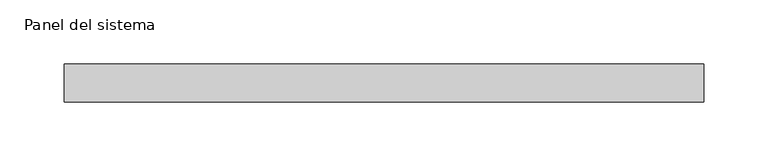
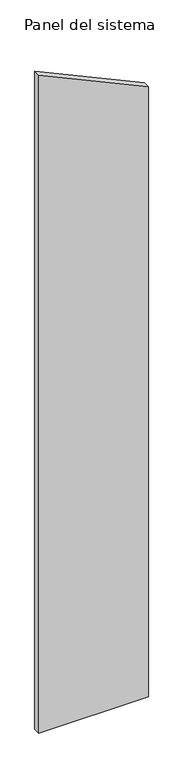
"""IFC4 building model written with IfcOpenShell, lengths in millimetres: plate geometry, Panel del sistema : HIANSA PANEL - PANELES DE CUBIERTA CON TAPAJUNTA - CUB 3GR - Esp. 30mm."""

from ifc_helpers import new_model, si_unit, point, frame, frame_2d, origin, place, context, project, spatial, polyline, circle_curve, trimmed, segment, composite_curve, outline, extrude, source, transform, mapped, element, save


def panel_del_sistema_0d385535(model_context):
    return source(origin(), model_context, "Body", "SweptSolid", [
        extrude(outline(composite_curve([segment(polyline([(0.0, -249.9999998), (0.0, 249.9999998), (2936.4441899, 249.9999998)]), True, "CONTINUOUS"), segment(trimmed(circle_curve(frame_2d((-202.632582, -1500.0000002)), 3593.9258451), [point((2936.4441899, 249.9999998))], [point((3166.9078881, -249.9999998))], False, "CARTESIAN"), True, "CONTINUOUS"), segment(polyline([(3166.9078881, -249.9999998), (0.0, -249.9999998)]), True, "CONTINUOUS")], self_intersect=False)), frame((0.0, 0.0, 0.0), z_axis=(0.0, 1.0, 0.0), x_axis=(0.0, 0.0, 1.0)), (0.0, 0.0, 1.0), 30.0),
    ])


if __name__ == "__main__":
    model = new_model("IFC4")
    model_context = context("Model", 3, world=origin())
    ifc_project = project(units=[si_unit("LENGTHUNIT", "METRE", prefix="MILLI")], contexts=[model_context])
    site = spatial("IfcSite", under=ifc_project)
    building = spatial("IfcBuilding", under=site)
    placement = place(None, origin())
    panel_del_sistema_shape = panel_del_sistema_0d385535(model_context)
    element("IfcPlate", 1, ObjectType="Panel del sistema : HIANSA PANEL - PANELES DE CUBIERTA CON TAPAJUNTA - CUB 3GR - Esp. 30mm", at=placement, inside=building, context=model_context, shape_type="MappedRepresentation", body=[
        mapped(panel_del_sistema_shape, transform((0.0, 0.0, 0.0), x_axis=(1.0, 0.0, 0.0), y_axis=(0.0, 1.0, 0.0), z_axis=(0.0, 0.0, 1.0))),
    ])
    save(model, "model.ifc")
